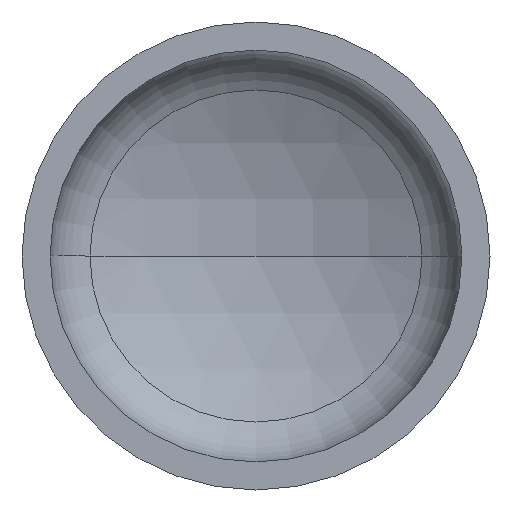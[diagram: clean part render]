
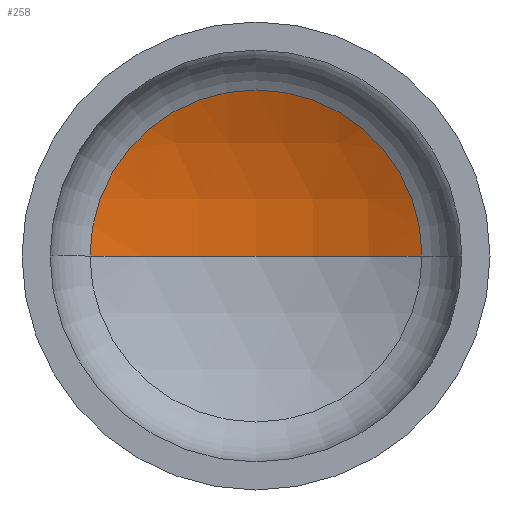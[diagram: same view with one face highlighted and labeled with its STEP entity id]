
A CAD part, front view. The second image highlights one B-rep face of the part: STEP entity #258.
In plain terms, the highlighted spherical face has radius 1280 mm.
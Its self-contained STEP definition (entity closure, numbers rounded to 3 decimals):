
#2 = AXIS2_PLACEMENT_3D ( 'NONE', #224, #391, #253 ) ;
#5 = AXIS2_PLACEMENT_3D ( 'NONE', #370, #223, #389 ) ;
#12 = VERTEX_POINT ( 'NONE', #285 ) ;
#22 = ORIENTED_EDGE ( 'NONE', *, *, #375, .T. ) ;
#29 = CIRCLE ( 'NONE', #5, 1280. ) ;
#32 = ORIENTED_EDGE ( 'NONE', *, *, #350, .F. ) ;
#33 = AXIS2_PLACEMENT_3D ( 'NONE', #363, #149, #385 ) ;
#75 = ORIENTED_EDGE ( 'NONE', *, *, #369, .T. ) ;
#98 = VERTEX_POINT ( 'NONE', #178 ) ;
#101 = VERTEX_POINT ( 'NONE', #302 ) ;
#109 = CARTESIAN_POINT ( 'NONE',  ( 0., 319.59, 0. ) ) ;
#113 = EDGE_LOOP ( 'NONE', ( #32, #75, #22 ) ) ;
#146 = SPHERICAL_SURFACE ( 'NONE', #33, 1280. ) ;
#149 = DIRECTION ( 'NONE',  ( 0., 0., -1. ) ) ;
#157 = DIRECTION ( 'NONE',  ( 1., 0., 0. ) ) ;
#170 = CIRCLE ( 'NONE', #2, 1280. ) ;
#178 = CARTESIAN_POINT ( 'NONE',  ( 567.652, 319.59, 0. ) ) ;
#223 = DIRECTION ( 'NONE',  ( 0., 0., 1. ) ) ;
#224 = CARTESIAN_POINT ( 'NONE',  ( 0., -827.655, 0. ) ) ;
#237 = CIRCLE ( 'NONE', #308, 567.652 ) ;
#253 = DIRECTION ( 'NONE',  ( -1., 0., 0. ) ) ;
#258 = ADVANCED_FACE ( 'NONE', ( #344 ), #146, .F. ) ;
#285 = CARTESIAN_POINT ( 'NONE',  ( -567.652, 319.59, 0. ) ) ;
#301 = DIRECTION ( 'NONE',  ( 0., -1., 0. ) ) ;
#302 = CARTESIAN_POINT ( 'NONE',  ( 0., 452.345, 0. ) ) ;
#308 = AXIS2_PLACEMENT_3D ( 'NONE', #109, #301, #157 ) ;
#344 = FACE_OUTER_BOUND ( 'NONE', #113, .T. ) ;
#350 = EDGE_CURVE ( 'NONE', #101, #12, #29, .T. ) ;
#363 = CARTESIAN_POINT ( 'NONE',  ( 0., -827.655, 0. ) ) ;
#369 = EDGE_CURVE ( 'NONE', #101, #98, #170, .T. ) ;
#370 = CARTESIAN_POINT ( 'NONE',  ( 0., -827.655, 0. ) ) ;
#375 = EDGE_CURVE ( 'NONE', #98, #12, #237, .T. ) ;
#385 = DIRECTION ( 'NONE',  ( -1., 0., 0. ) ) ;
#389 = DIRECTION ( 'NONE',  ( 1., 0., 0. ) ) ;
#391 = DIRECTION ( 'NONE',  ( 0., 0., -1. ) ) ;
